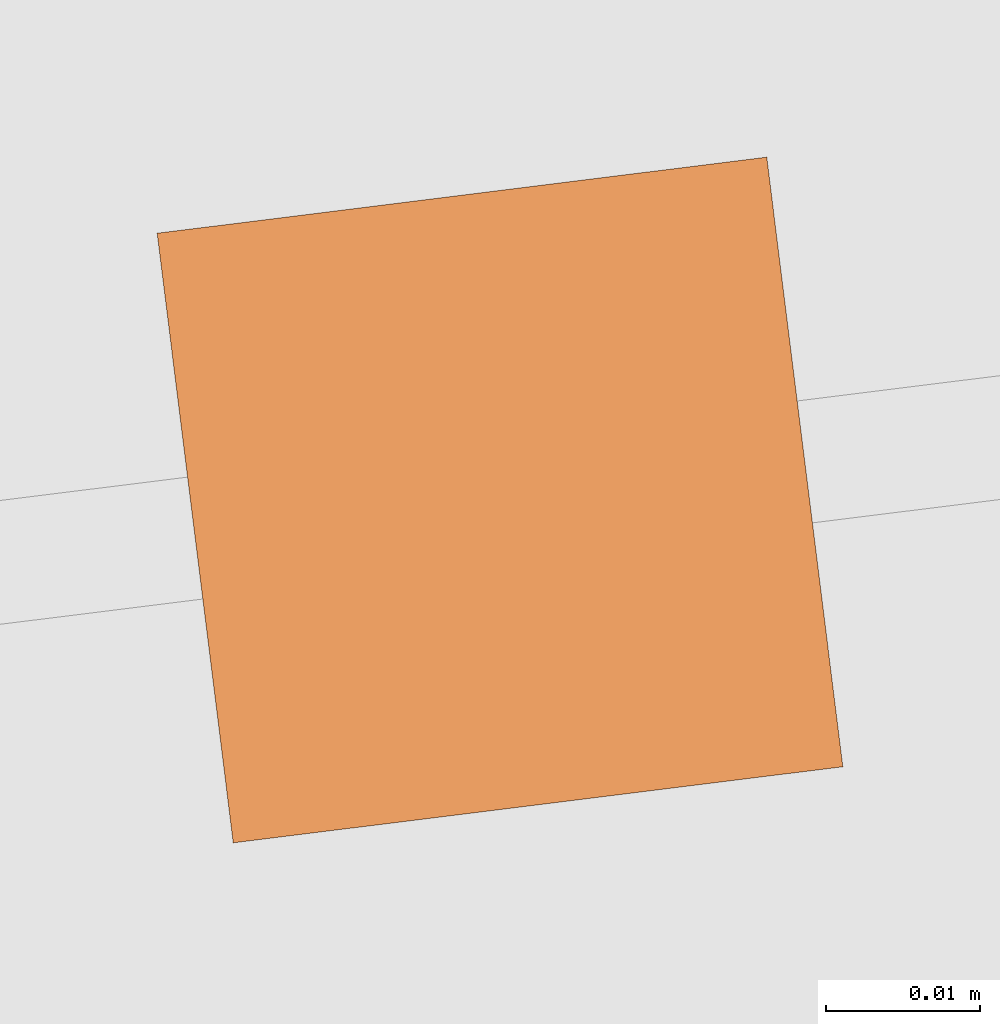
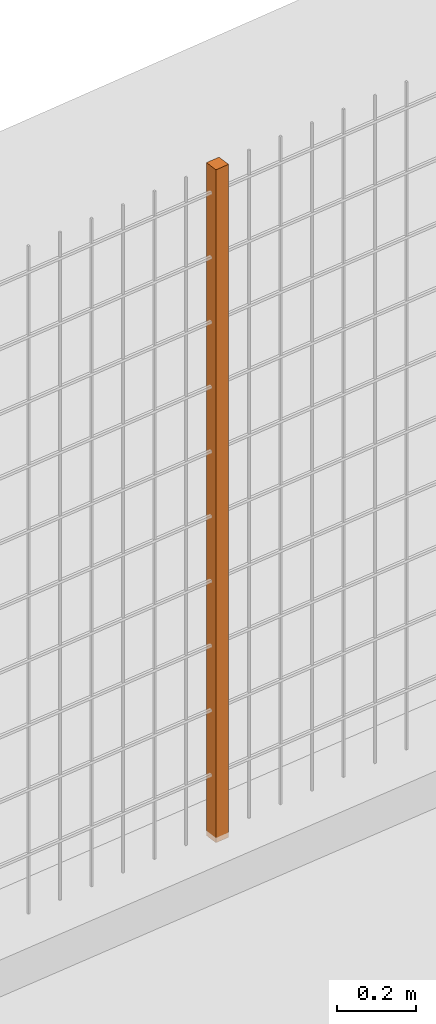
# One storey, part 27 of 1809: 1 proxy, 1 element without a shape of its own.
"""IFC2X3 building model written with IfcOpenShell, lengths in millimetres."""

import ifcopenshell
import ifcopenshell.guid

model = None  # the IFC model being written
_history = None  # IfcOwnerHistory: only IFC2X3 demands one
_inside = {}  # id of a spatial element -> (the spatial element, [elements in it])
_under = {}  # id of a project, library or spatial element -> (it, [spatial elements below it])
_declared = {}  # id of a project -> (the project, [libraries it declares])
_typed = {}  # id of a type object -> (the type object, [elements of that type])
_made_of = {}  # id of a material, layer set ... -> (it, [elements and type objects made of it])


def new_model(schema):
    """Start an empty IFC model of exactly this schema.

    Asked for "IFC4X3", IfcOpenShell would pick the latest addendum, in which some entities
    have other attributes; the version numbers below select the first issue.
    IFC2X3 requires an IfcOwnerHistory on every rooted entity: one is made here for all.
    """
    global model, _history
    if schema == "IFC4X3":
        model = ifcopenshell.file(schema_version=(4, 3, 0, 0))
    else:
        model = ifcopenshell.file(schema=schema)
    _inside.clear()
    _under.clear()
    _declared.clear()
    _typed.clear()
    _made_of.clear()
    _history = None
    if model.schema == "IFC2X3":
        org = make("IfcOrganization", Name="unknown")
        user = make(
            "IfcPersonAndOrganization",
            ThePerson=make("IfcPerson", FamilyName="unknown"),
            TheOrganization=org,
        )
        app = make(
            "IfcApplication",
            ApplicationDeveloper=org,
            Version="unknown",
            ApplicationFullName="unknown",
            ApplicationIdentifier="unknown",
        )
        _history = make(
            "IfcOwnerHistory",
            OwningUser=user,
            OwningApplication=app,
            ChangeAction="ADDED",
            CreationDate=0,
        )
    return model


def make(cls, **values):
    """One entity of the class cls with the attributes given. An attribute that is None is left unset."""
    return model.create_entity(
        cls, **{name: value for name, value in values.items() if value is not None}
    )


def entity(cls, *values):
    """Any entity or typed value of the class cls, its attributes in the order of the schema. None: left unset."""
    e = model.create_entity(cls)
    for i, value in enumerate(values):
        if value is not None:
            e[i] = value
    return e


def rooted(cls, **values):
    """An entity with a GlobalId (a new one), such as an element, a storey or a relation."""
    return make(cls, GlobalId=ifcopenshell.guid.new(), OwnerHistory=_history, **values)


def si_unit(unit_type, name, prefix=None):
    """IfcSIUnit, for example si_unit("LENGTHUNIT", "METRE", prefix="MILLI")."""
    return make("IfcSIUnit", UnitType=unit_type, Prefix=prefix, Name=name)


def converted_unit(unit_type, name, factor, base, dimensions=None, offset=None):
    """IfcConversionBasedUnit, such as the inch: factor (a typed value) times the base unit."""
    return make(
        "IfcConversionBasedUnit"
        if offset is None
        else "IfcConversionBasedUnitWithOffset",
        ConversionOffset=offset,
        Dimensions=None
        if dimensions is None
        else entity("IfcDimensionalExponents", *dimensions),
        UnitType=unit_type,
        Name=name,
        ConversionFactor=make(
            "IfcMeasureWithUnit", ValueComponent=factor, UnitComponent=base
        ),
    )


def derived_unit(unit_type, elements):
    """IfcDerivedUnit: a product of units, each with its exponent."""
    return make(
        "IfcDerivedUnit",
        Elements=[
            make("IfcDerivedUnitElement", Unit=unit, Exponent=power)
            for unit, power in elements
        ],
        UnitType=unit_type,
    )


def money_unit(currency):
    """IfcMonetaryUnit."""
    return make("IfcMonetaryUnit", Currency=currency)


def assignment(units):
    """IfcUnitAssignment: the units of a project."""
    return None if units is None else make("IfcUnitAssignment", Units=units)


def point(xyz):
    """IfcCartesianPoint."""
    return None if xyz is None else make("IfcCartesianPoint", Coordinates=xyz)


def direction(xyz):
    """IfcDirection."""
    return None if xyz is None else make("IfcDirection", DirectionRatios=xyz)


def frame(location, z_axis=None, x_axis=None):
    """IfcAxis2Placement3D, a coordinate frame: its origin and axes. An axis left out is left unset."""
    return make(
        "IfcAxis2Placement3D",
        Location=point(location),
        Axis=direction(z_axis),
        RefDirection=direction(x_axis),
    )


def origin_with_axes():
    """The frame at (0, 0, 0) with the z axis (0, 0, 1) and the x axis (1, 0, 0) written out."""
    return frame((0.0, 0.0, 0.0), z_axis=(0.0, 0.0, 1.0), x_axis=(1.0, 0.0, 0.0))


def place(relative_to, where):
    """IfcLocalPlacement: puts the frame where relative to a parent placement (None: the world)."""
    return make(
        "IfcLocalPlacement", PlacementRelTo=relative_to, RelativePlacement=where
    )


def context(
    kind, dimensions, precision=None, world=None, true_north=None, identifier=None
):
    """IfcGeometricRepresentationContext, for example the 3D "Model" context."""
    return make(
        "IfcGeometricRepresentationContext",
        ContextIdentifier=identifier,
        ContextType=kind,
        CoordinateSpaceDimension=dimensions,
        Precision=precision,
        WorldCoordinateSystem=world,
        TrueNorth=true_north,
    )


def subcontext(parent, identifier, kind, view, scale=None):
    """IfcGeometricRepresentationSubContext, for example "Body" below "Model"."""
    return make(
        "IfcGeometricRepresentationSubContext",
        ContextIdentifier=identifier,
        ContextType=kind,
        ParentContext=parent,
        TargetScale=scale,
        TargetView=view,
    )


def project(units=None, contexts=None):
    """IfcProject with its units and contexts."""
    return rooted(
        "IfcProject",
        Name="project",
        RepresentationContexts=contexts,
        UnitsInContext=assignment(units),
    )


def spatial(cls, under=None, at=None, **own):
    """A site, building, storey or space (cls), placed at a placement, below another one or the project."""
    s = rooted(cls, ObjectPlacement=at, **own)
    if under is not None:
        _under.setdefault(under.id(), (under, []))[1].append(s)
    return s


def faces_of(points, faces, orient=None, outer=None):
    """IfcFace entities. A face is a list of loops; a loop is a list of indices into points, from 0.

    orient and outer hold one flag for each loop. By default every Orientation is true, the
    first loop of a face is its IfcFaceOuterBound and the others are IfcFaceBound.
    """
    made = []
    for i, loops in enumerate(faces):
        bounds = []
        for j, loop in enumerate(loops):
            is_outer = j == 0 if outer is None else outer[i][j]
            bounds.append(
                make(
                    "IfcFaceOuterBound" if is_outer else "IfcFaceBound",
                    Bound=make("IfcPolyLoop", Polygon=[points[k] for k in loop]),
                    Orientation=True if orient is None else orient[i][j],
                )
            )
        made.append(make("IfcFace", Bounds=bounds))
    return made


def faceted_brep(points, faces, orient=None, outer=None, voids=None):
    """IfcFacetedBrep: a solid bounded by flat faces; with voids (closed shells), ...WithVoids."""
    shared = [point(p) for p in points]
    hull = make("IfcClosedShell", CfsFaces=faces_of(shared, faces, orient, outer))
    if voids is None:
        return make("IfcFacetedBrep", Outer=hull)
    return make(
        "IfcFacetedBrepWithVoids",
        Outer=hull,
        Voids=[
            make(cls, CfsFaces=faces_of(shared, fs, o, b)) for cls, fs, o, b in voids
        ],
    )


def shape(context_of_items, identifier, shape_type, items):
    """IfcShapeRepresentation: the items that make up one representation, for example the "Body"."""
    return make(
        "IfcShapeRepresentation",
        ContextOfItems=context_of_items,
        RepresentationIdentifier=identifier,
        RepresentationType=shape_type,
        Items=items,
    )


def source(mapping_origin, context_of_items, identifier, shape_type, items):
    """IfcRepresentationMap: a shape defined once, which mapped items show again and again."""
    return make(
        "IfcRepresentationMap",
        MappingOrigin=mapping_origin,
        MappedRepresentation=shape(context_of_items, identifier, shape_type, items),
    )


def transform(
    local_origin,
    x_axis=None,
    y_axis=None,
    z_axis=None,
    scale=None,
    scale2=None,
    scale3=None,
    uniform=True,
):
    """IfcCartesianTransformationOperator3D, or its non-uniform kind. x_axis, y_axis, z_axis: its Axis1, 2, 3."""
    if uniform:
        return make(
            "IfcCartesianTransformationOperator3D",
            Axis1=direction(x_axis),
            Axis2=direction(y_axis),
            LocalOrigin=point(local_origin),
            Scale=scale,
            Axis3=direction(z_axis),
        )
    return make(
        "IfcCartesianTransformationOperator3DnonUniform",
        Axis1=direction(x_axis),
        Axis2=direction(y_axis),
        LocalOrigin=point(local_origin),
        Scale=scale,
        Axis3=direction(z_axis),
        Scale2=scale2,
        Scale3=scale3,
    )


def mapped(mapping_source, mapping_target):
    """IfcMappedItem: shows the shape of a source again, moved by a transform."""
    return make(
        "IfcMappedItem", MappingSource=mapping_source, MappingTarget=mapping_target
    )


def material(Name=None, Category=None):
    """IfcMaterial."""
    return make("IfcMaterial", Name=Name, Category=Category)


def made_of(thing, what):
    """Note that an element or type object is made of a material, layer set ...; save() writes the relation."""
    if what is not None:
        _made_of.setdefault(what.id(), (what, []))[1].append(thing)
    return thing


def type_object(cls, material=None, **own):
    """A type object (cls), such as IfcWallType, which elements share."""
    return made_of(rooted(cls, **own), material)


def element(
    cls,
    number,
    at=None,
    inside=None,
    cuts=None,
    type_object=None,
    material=None,
    context=None,
    identifier="Body",
    shape_type=None,
    held_by="IfcProductDefinitionShape",
    body=None,
    shapes=None,
    **own,
):
    """One element of the class cls, such as IfcWall. Its Tag is "e" and its number.

    at: its placement. inside: the storey or other place that contains it. cuts: it is an
    opening in that element (IfcRelVoidsElement). A single representation is given by context,
    identifier, shape_type and body (its items); several are given by shapes. held_by: the class
    of the entity that holds the representations. save() writes the other relations.
    """
    e = rooted(cls, Tag="e%d" % number, ObjectPlacement=at, **own)
    if body is not None:
        shapes = [shape(context, identifier, shape_type, body)]
    if shapes is not None:
        e.Representation = make(held_by, Representations=shapes)
    if inside is not None:
        _inside.setdefault(inside.id(), (inside, []))[1].append(e)
    if cuts is not None:
        rooted(
            "IfcRelVoidsElement", RelatingBuildingElement=cuts, RelatedOpeningElement=e
        )
    if type_object is not None:
        _typed.setdefault(type_object.id(), (type_object, []))[1].append(e)
    return made_of(e, material)


def aggregate(whole, parts):
    """IfcRelAggregates: a whole, such as a stair, and the parts it consists of."""
    return rooted("IfcRelAggregates", RelatingObject=whole, RelatedObjects=parts)


def save(model, path):
    """Write the relations noted so far, then the file.

    IfcRelAggregates (storeys below a building ...), IfcRelContainedInSpatialStructure (elements
    in a storey), IfcRelDefinesByType, IfcRelAssociatesMaterial and IfcRelDeclares: one each for
    every whole, place, type object, material and project.
    """
    for whole, parts in _under.values():
        aggregate(whole, parts)
    for where, things in _inside.values():
        rooted(
            "IfcRelContainedInSpatialStructure",
            RelatedElements=things,
            RelatingStructure=where,
        )
    for kind, things in _typed.values():
        rooted("IfcRelDefinesByType", RelatedObjects=things, RelatingType=kind)
    for what, things in _made_of.values():
        rooted("IfcRelAssociatesMaterial", RelatedObjects=things, RelatingMaterial=what)
    for by, libraries in _declared.values():
        rooted("IfcRelDeclares", RelatingContext=by, RelatedDefinitions=libraries)
    model.write(path)


model = new_model("IFC2X3")

# Units and contexts
model_context = context("Model", 3, precision=0.01, world=origin_with_axes(), true_north=direction((0.0, 1.0)))
body_context = subcontext(model_context, "Body", "Model", "MODEL_VIEW")
ifc_project = project(units=[si_unit("LENGTHUNIT", "METRE", prefix="MILLI"), si_unit("AREAUNIT", "SQUARE_METRE"), si_unit("VOLUMEUNIT", "CUBIC_METRE"), converted_unit("PLANEANGLEUNIT", "DEGREE", entity("IfcPlaneAngleMeasure", 0.0174532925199), si_unit("PLANEANGLEUNIT", "RADIAN"), dimensions=[0, 0, 0, 0, 0, 0, 0]), si_unit("SOLIDANGLEUNIT", "STERADIAN"), money_unit("EUR"), converted_unit("TIMEUNIT", "Year", entity("IfcTimeMeasure", 31556926.0), si_unit("TIMEUNIT", "SECOND"), dimensions=[0, 0, 1, 0, 0, 0, 0]), si_unit("MASSUNIT", "GRAM", prefix="KILO"), si_unit("THERMODYNAMICTEMPERATUREUNIT", "DEGREE_CELSIUS"), si_unit("LUMINOUSINTENSITYUNIT", "LUMEN"), si_unit("ENERGYUNIT", "JOULE", prefix="MEGA"), derived_unit("THERMALCONDUCTANCEUNIT", [(si_unit("POWERUNIT", "WATT"), 1), (si_unit("LENGTHUNIT", "METRE"), -1), (si_unit("THERMODYNAMICTEMPERATUREUNIT", "KELVIN"), -1)]), derived_unit("SPECIFICHEATCAPACITYUNIT", [(si_unit("ENERGYUNIT", "JOULE"), 1), (si_unit("MASSUNIT", "GRAM", prefix="KILO"), -1), (si_unit("THERMODYNAMICTEMPERATUREUNIT", "KELVIN"), -1)]), derived_unit("MASSDENSITYUNIT", [(si_unit("MASSUNIT", "GRAM", prefix="KILO"), 1), (si_unit("VOLUMEUNIT", "CUBIC_METRE"), -1)])], contexts=[model_context])

# Site, building, storey
site_placement = place(None, origin_with_axes())
site = spatial("IfcSite", under=ifc_project, at=site_placement, Name="Politse- ja Piirivalveameti ning Päästeameti ühishoone", CompositionType="ELEMENT")
building_placement = place(site_placement, origin_with_axes())
building = spatial("IfcBuilding", under=site, at=building_placement, Name="Politse- ja Piirivalveameti ning Päästeameti ühishoone", CompositionType="ELEMENT")
storey_placement = place(building_placement, origin_with_axes())
storey = spatial("IfcBuildingStorey", under=building, at=storey_placement, Name="Esimene korrus", CompositionType="ELEMENT", Elevation=0.0)

# Proxies
building_element_proxy_type_1 = type_object("IfcBuildingElementProxyType", Name="Railing Type", PredefinedType="NOTDEFINED")
proxy_1_placement = place(storey_placement, frame((44315.9245146, 76650.7857067, 296.762367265), z_axis=(0.0, 0.0, 1.0), x_axis=(0.122151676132, 0.992511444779, 0.0)))
proxy_1 = element("IfcBuildingElementProxy", 1, at=proxy_1_placement, inside=storey, type_object=building_element_proxy_type_1, Name="PIIRDEAED")
ifc_material = material(Name="ET-03_Raud")
building_element_proxy_type_2 = type_object("IfcBuildingElementProxyType", Name="IfcBuildingElementProxy", PredefinedType="NOTDEFINED")
shared_shape = source(origin_with_axes(), body_context, "Body", "Brep", [
    faceted_brep([(20.0, 20.0, 0.0), (-20.0, 20.0, 0.0), (-20.0, 20.0, 2080.0), (20.0, 20.0, 2080.0), (20.0, -20.0, 0.0), (-20.0, -20.0, 0.0), (-20.0, -20.0, 2080.0), (20.0, -20.0, 2080.0)], [[[0, 1, 2, 3]], [[0, 4, 5, 1]], [[1, 5, 6, 2]], [[3, 2, 6, 7]], [[4, 0, 3, 7]], [[5, 4, 7, 6]]]),
])
proxy_2_placement = place(proxy_1_placement, frame((-4745.29539009, 18064.0299738, 0.0), z_axis=(0.0, 0.0, 1.0), x_axis=(0.122151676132, -0.992511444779, 0.0)))
proxy_2 = element("IfcBuildingElementProxy", 2, at=proxy_2_placement, type_object=building_element_proxy_type_2, material=ifc_material, Name="SISEPOST - 001", context=body_context, shape_type="MappedRepresentation", body=[
    mapped(shared_shape, transform((0.0, 0.0, 0.0), x_axis=(-0.123895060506, 0.99229532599, 0.0), y_axis=(-0.99229532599, -0.123895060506, 0.0), z_axis=(0.0, 0.0, 1.0))),
])
aggregate(proxy_1, [proxy_2])

save(model, "model.ifc")
